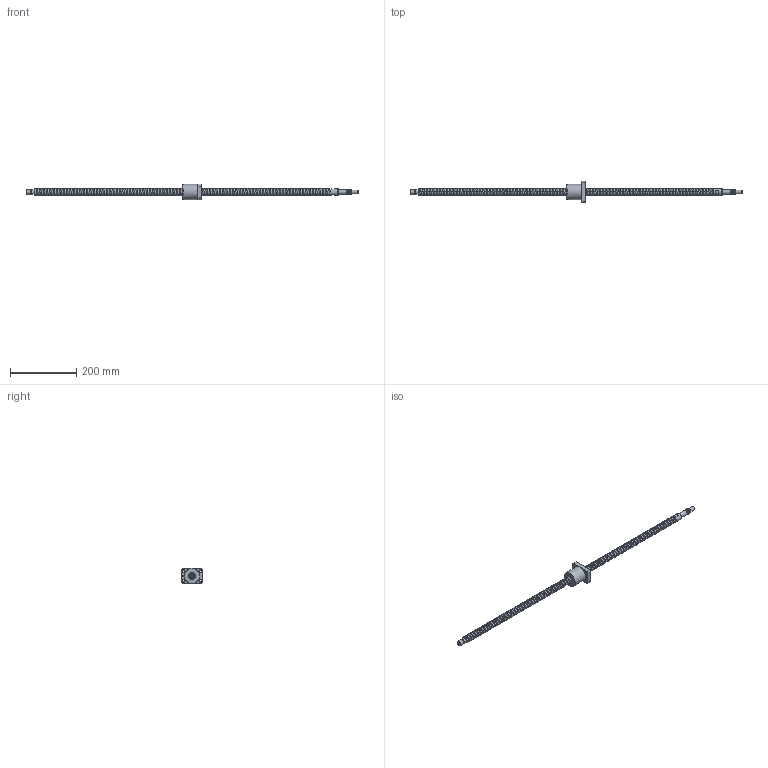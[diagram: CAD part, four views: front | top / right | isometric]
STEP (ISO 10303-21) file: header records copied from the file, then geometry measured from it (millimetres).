
FILE_DESCRIPTION (( 'STEP AP203' ), '1' );
FILE_NAME ('XSVR02010B1DGC5-999-P1.step', '2024-06-03T06:19:44', ( '' ), ( '' ), 'SwSTEP 2.0', 'SolidWorks 2022', '' );
FILE_SCHEMA (( 'CONFIG_CONTROL_DESIGN' ));
Length unit declared in the file: millimetre
Products named in the file (1): XSVR02010B1DGC5-999-P1
Bounding box: 999 x 66 x 46 mm (x, y, z)
Volume: 366682.7 mm3; surface area: 86338 mm2
Topology: 2 solids, 2 shells, 249 faces, 696 edges, 459 vertices
Faces by surface type: cylinder 149, plane 40, bspline 31, cone 20, torus 9
Full cylindrical faces by diameter (mm): 4 x1, 5 x15, 6.6 x4, 11 x4, 12 x1, 14.3 x1, 15 x16, 20 x89, 22.3 x1, 46 x1
Entity records: 31859 total; most frequent: CARTESIAN_POINT 29201, ORIENTED_EDGE 594, DIRECTION 409, EDGE_CURVE 297, VERTEX_POINT 212, EDGE_LOOP 187, AXIS2_PLACEMENT_3D 179, FACE_OUTER_BOUND 150
